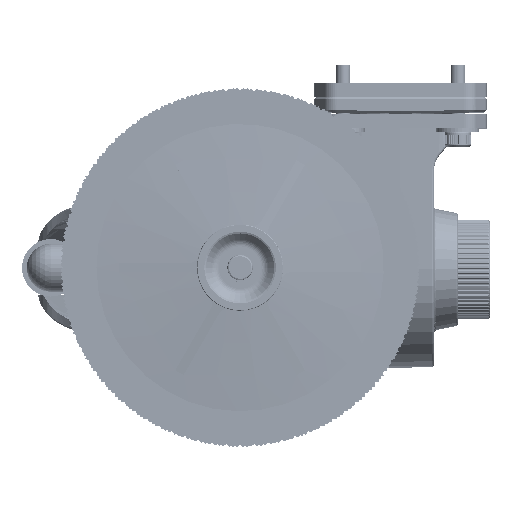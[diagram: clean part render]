
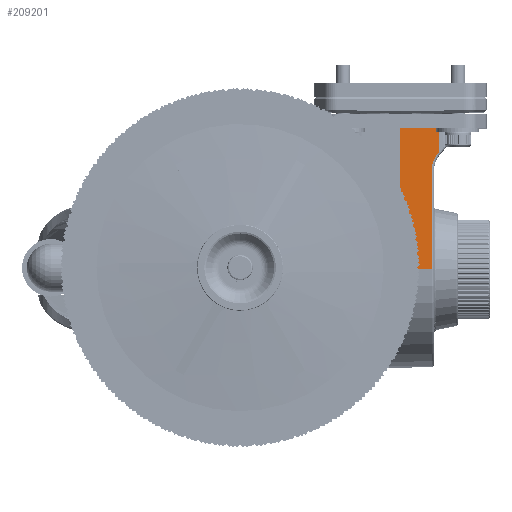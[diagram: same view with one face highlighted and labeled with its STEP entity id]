
A CAD part, top view. The second image highlights one B-rep face of the part: STEP entity #209201.
In plain terms, the highlighted planar face has unit normal (0.018, 0, 1).
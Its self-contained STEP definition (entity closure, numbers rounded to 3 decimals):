
#5747 = LINE ( 'NONE', #153553, #198132 ) ;
#7549 = VERTEX_POINT ( 'NONE', #368243 ) ;
#16194 = DIRECTION ( 'NONE',  ( 0., 1., 0. ) ) ;
#30516 = CARTESIAN_POINT ( 'NONE',  ( 6.951, -57.288, 20.379 ) ) ;
#41593 = DIRECTION ( 'NONE',  ( 0.017, 0., 1. ) ) ;
#70646 = CARTESIAN_POINT ( 'NONE',  ( -0.55, -49.009, 20.51 ) ) ;
#73227 = PLANE ( 'NONE',  #191228 ) ;
#75394 = EDGE_CURVE ( 'NONE', #351148, #101678, #447553, .T. ) ;
#81534 = EDGE_CURVE ( 'NONE', #190075, #351148, #5747, .T. ) ;
#101678 = VERTEX_POINT ( 'NONE', #378927 ) ;
#102305 = CARTESIAN_POINT ( 'NONE',  ( 6.509, -80.5, 20.386 ) ) ;
#116198 = VECTOR ( 'NONE', #16194, 1000. ) ;
#128331 = EDGE_CURVE ( 'NONE', #332561, #190075, #397128, .T. ) ;
#136783 = ORIENTED_EDGE ( 'NONE', *, *, #282959, .T. ) ;
#145850 = FACE_OUTER_BOUND ( 'NONE', #190968, .T. ) ;
#153553 = CARTESIAN_POINT ( 'NONE',  ( 0., -48., 20.5 ) ) ;
#169245 = CARTESIAN_POINT ( 'NONE',  ( 0., -49., 20.5 ) ) ;
#171645 = DIRECTION ( 'NONE',  ( 0.64, 0.768, -0.011 ) ) ;
#190075 = VERTEX_POINT ( 'NONE', #169245 ) ;
#190968 = EDGE_LOOP ( 'NONE', ( #261627, #267146, #341401, #408617, #206299, #431638, #136783 ) ) ;
#191228 = AXIS2_PLACEMENT_3D ( 'NONE', #477198, #41593, #411639 ) ;
#192212 = DIRECTION ( 'NONE',  ( 0., -1., 0. ) ) ;
#198132 = VECTOR ( 'NONE', #192212, 1000. ) ;
#206299 = ORIENTED_EDGE ( 'NONE', *, *, #423509, .T. ) ;
#209201 = ADVANCED_FACE ( 'NONE', ( #145850 ), #73227, .T. ) ;
#210172 = CARTESIAN_POINT ( 'NONE',  ( 8.07, -48.859, 20.359 ) ) ;
#221906 = VECTOR ( 'NONE', #331527, 1000. ) ;
#225125 = CARTESIAN_POINT ( 'NONE',  ( 0., -80.5, 20.5 ) ) ;
#226945 = LINE ( 'NONE', #383934, #116198 ) ;
#241850 = LINE ( 'NONE', #244217, #410624 ) ;
#244217 = CARTESIAN_POINT ( 'NONE',  ( -7.312, -74.404, 20.628 ) ) ;
#250598 = CARTESIAN_POINT ( 'NONE',  ( 0., -80.5, 20.5 ) ) ;
#255462 = CARTESIAN_POINT ( 'NONE',  ( 7.784, -56.289, 20.364 ) ) ;
#261627 = ORIENTED_EDGE ( 'NONE', *, *, #316522, .T. ) ;
#267146 = ORIENTED_EDGE ( 'NONE', *, *, #128331, .T. ) ;
#267876 = VERTEX_POINT ( 'NONE', #365630 ) ;
#282959 = EDGE_CURVE ( 'NONE', #7549, #346597, #241850, .T. ) ;
#311954 =( BOUNDED_CURVE ( )  B_SPLINE_CURVE ( 3, ( #475684, #369138, #30516, #255462 ),
 .UNSPECIFIED., .F., .T. ) 
 B_SPLINE_CURVE_WITH_KNOTS ( ( 4, 4 ),
 ( 0., 0.695 ),
 .UNSPECIFIED. ) 
 CURVE ( )  GEOMETRIC_REPRESENTATION_ITEM ( )  RATIONAL_B_SPLINE_CURVE ( ( 1., 0.96, 0.96, 1. ) ) 
 REPRESENTATION_ITEM ( '' )  );
#312417 = VECTOR ( 'NONE', #402121, 1000. ) ;
#316522 = EDGE_CURVE ( 'NONE', #346597, #332561, #226945, .T. ) ;
#316919 = CARTESIAN_POINT ( 'NONE',  ( 8.07, -55.946, 20.359 ) ) ;
#331527 = DIRECTION ( 'NONE',  ( 1., 0., -0.017 ) ) ;
#332561 = VERTEX_POINT ( 'NONE', #210172 ) ;
#341401 = ORIENTED_EDGE ( 'NONE', *, *, #81534, .T. ) ;
#346597 = VERTEX_POINT ( 'NONE', #316919 ) ;
#351148 = VERTEX_POINT ( 'NONE', #250598 ) ;
#360953 = DIRECTION ( 'NONE',  ( -1., -0.017, 0.017 ) ) ;
#365630 = CARTESIAN_POINT ( 'NONE',  ( 6.509, -59.81, 20.386 ) ) ;
#368243 = CARTESIAN_POINT ( 'NONE',  ( 7.784, -56.289, 20.364 ) ) ;
#369138 = CARTESIAN_POINT ( 'NONE',  ( 6.509, -58.51, 20.386 ) ) ;
#370637 = LINE ( 'NONE', #102305, #312417 ) ;
#378927 = CARTESIAN_POINT ( 'NONE',  ( 6.509, -80.5, 20.386 ) ) ;
#382114 = VECTOR ( 'NONE', #360953, 1000. ) ;
#383934 = CARTESIAN_POINT ( 'NONE',  ( 8.07, -47.791, 20.359 ) ) ;
#397128 = LINE ( 'NONE', #70646, #382114 ) ;
#400700 = EDGE_CURVE ( 'NONE', #267876, #7549, #311954, .T. ) ;
#402121 = DIRECTION ( 'NONE',  ( 0., 1., 0. ) ) ;
#408617 = ORIENTED_EDGE ( 'NONE', *, *, #75394, .T. ) ;
#410624 = VECTOR ( 'NONE', #171645, 1000. ) ;
#411639 = DIRECTION ( 'NONE',  ( 1., 0., -0.017 ) ) ;
#423509 = EDGE_CURVE ( 'NONE', #101678, #267876, #370637, .T. ) ;
#431638 = ORIENTED_EDGE ( 'NONE', *, *, #400700, .T. ) ;
#447553 = LINE ( 'NONE', #225125, #221906 ) ;
#475684 = CARTESIAN_POINT ( 'NONE',  ( 6.509, -59.81, 20.386 ) ) ;
#477198 = CARTESIAN_POINT ( 'NONE',  ( 0., -80.5, 20.5 ) ) ;
